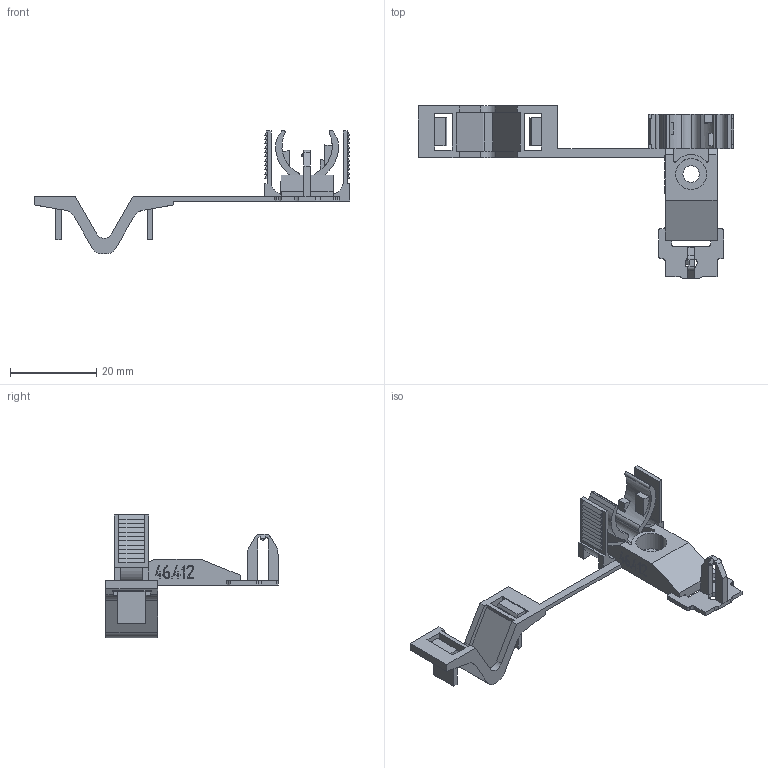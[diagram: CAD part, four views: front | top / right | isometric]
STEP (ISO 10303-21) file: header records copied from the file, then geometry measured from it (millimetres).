
FILE_DESCRIPTION(('CAx-IF Rec.Pracs.---Model Styling and Organization---1.2---2011-12-15','CAx-IF Rec.Pracs.---Geometric and Assembly Validation Properties---4.1---2014-06-16','CAx-IF Rec.Pracs.---PMI Polyline Presentation---2.0---2013-05-24'),'2;1');
FILE_NAME('005YU0UY08.stp','2017-11-20T12:37:41+01:00',(''),(''),'STEP Interface 4.1 by CT CoreTechnologie','3D_Evolution4.1 by CT CoreTechnologie','');
FILE_SCHEMA(('AP203_CONFIGURATION_CONTROLLED_3D_DESIGN_OF_MECHANICAL_PARTS_AND_ASSEMBLIES_MIM_LF'));
Length unit declared in the file: millimetre
Products named in the file (1): 005-U0U-08
Bounding box: 72.97 x 39.9 x 28.57 mm (x, y, z)
Volume: 3015.5 mm3; surface area: 5110.1 mm2
Topology: 1 solids, 1 shells, 360 faces, 1016 edges, 676 vertices
Faces by surface type: plane 280, cylinder 68, bspline 12
Entity records: 15211 total; most frequent: CARTESIAN_POINT 2889, ORIENTED_EDGE 2032, DIRECTION 1843, EDGE_CURVE 1016, VECTOR 839, LINE 839, VERTEX_POINT 676, AXIS2_PLACEMENT_3D 502
